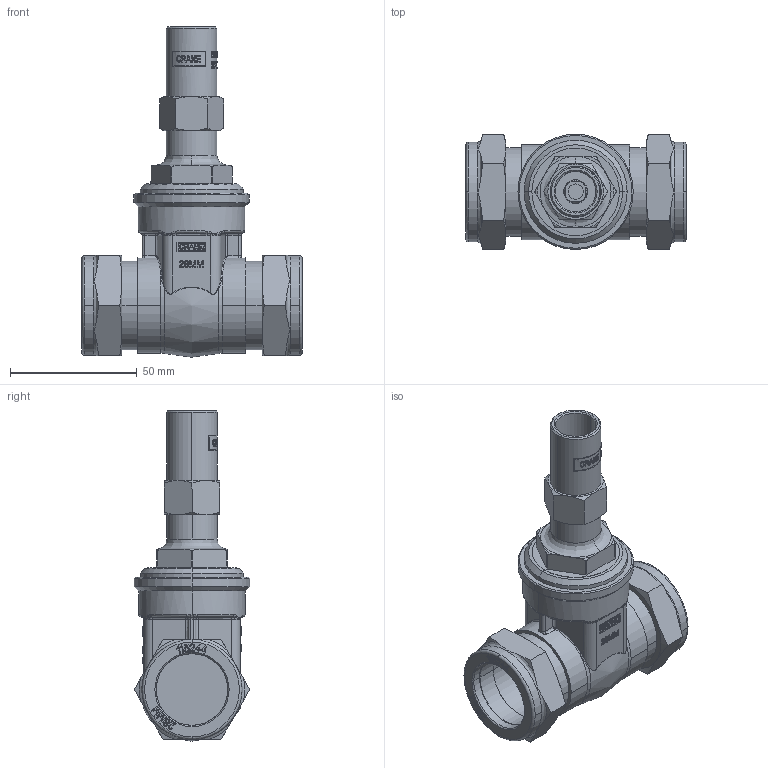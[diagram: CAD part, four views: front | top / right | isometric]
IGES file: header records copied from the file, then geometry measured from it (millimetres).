
Global section: file name: No Iges File Name specified; native system: AutoDesk Inventor R12.0; preprocessor: AutoDesk Inventor Iges Exporter R12.0; date: 20110314.110606; units: millimetre
Bounding box: 87.09 x 45.61 x 130.4 mm (x, y, z)
Volume: 131027.5 mm3; surface area: 33697.5 mm2
Topology: 1 solids, 3 shells, 1367 faces, 3594 edges, 2342 vertices
Faces by surface type: plane 627, bspline 487, cylinder 99, revolution 78, cone 54, torus 22
